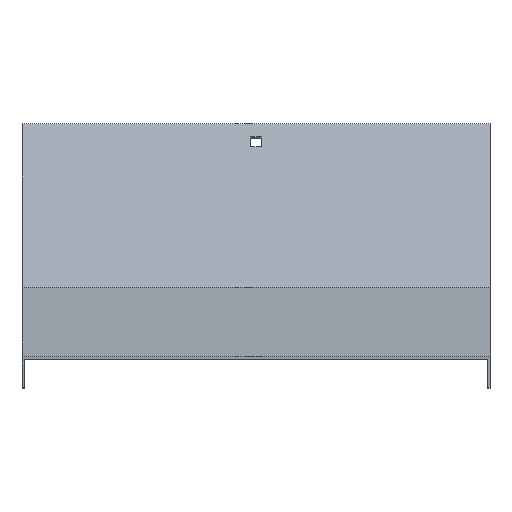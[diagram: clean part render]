
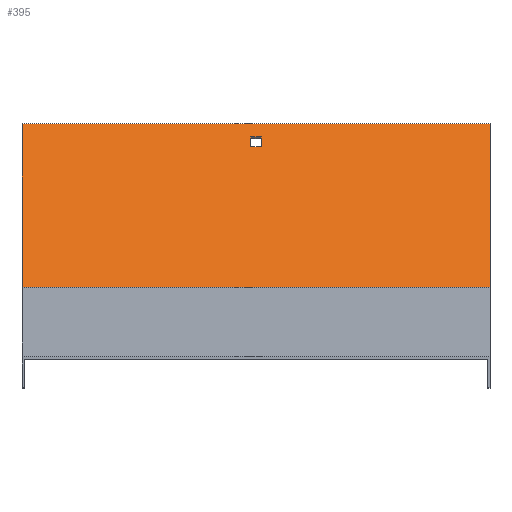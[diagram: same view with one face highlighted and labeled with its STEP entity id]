
A CAD part, top view. The second image highlights one B-rep face of the part: STEP entity #395.
In plain terms, the highlighted planar face has unit normal (0, 0.707, 0.707).
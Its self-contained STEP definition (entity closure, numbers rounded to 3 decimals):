
#5 = CARTESIAN_POINT ( 'NONE',  ( 3.25, 142.94, -357.089 ) ) ;
#14 = CARTESIAN_POINT ( 'NONE',  ( -3.25, 136.576, -350.725 ) ) ;
#15 = EDGE_CURVE ( 'NONE', #163, #213, #804, .T. ) ;
#31 = VECTOR ( 'NONE', #819, 1000. ) ;
#39 = VECTOR ( 'NONE', #87, 1000. ) ;
#43 = ORIENTED_EDGE ( 'NONE', *, *, #637, .F. ) ;
#48 = DIRECTION ( 'NONE',  ( 0., 0.707, 0.707 ) ) ;
#52 = VERTEX_POINT ( 'NONE', #284 ) ;
#87 = DIRECTION ( 'NONE',  ( 0., -0.707, 0.707 ) ) ;
#88 = VECTOR ( 'NONE', #230, 1000. ) ;
#100 = VECTOR ( 'NONE', #778, 1000. ) ;
#104 = DIRECTION ( 'NONE',  ( 0., 0.707, -0.707 ) ) ;
#108 = CARTESIAN_POINT ( 'NONE',  ( 151.5, 45.501, -259.649 ) ) ;
#149 = EDGE_LOOP ( 'NONE', ( #348, #239, #527, #237 ) ) ;
#152 = LINE ( 'NONE', #753, #254 ) ;
#157 = CARTESIAN_POINT ( 'NONE',  ( 3.25, 136.576, -350.725 ) ) ;
#163 = VERTEX_POINT ( 'NONE', #813 ) ;
#179 = FACE_OUTER_BOUND ( 'NONE', #149, .T. ) ;
#213 = VERTEX_POINT ( 'NONE', #568 ) ;
#230 = DIRECTION ( 'NONE',  ( 1., 0., 0. ) ) ;
#237 = ORIENTED_EDGE ( 'NONE', *, *, #649, .T. ) ;
#239 = ORIENTED_EDGE ( 'NONE', *, *, #697, .F. ) ;
#243 = VECTOR ( 'NONE', #782, 1000. ) ;
#254 = VECTOR ( 'NONE', #410, 1000. ) ;
#270 = EDGE_CURVE ( 'NONE', #522, #52, #802, .T. ) ;
#273 = CARTESIAN_POINT ( 'NONE',  ( -3.25, 136.576, -350.725 ) ) ;
#284 = CARTESIAN_POINT ( 'NONE',  ( 3.25, 136.576, -350.725 ) ) ;
#316 = CARTESIAN_POINT ( 'NONE',  ( 151.5, 45.501, -259.649 ) ) ;
#322 = VERTEX_POINT ( 'NONE', #364 ) ;
#324 = CARTESIAN_POINT ( 'NONE',  ( 151.5, 45.501, -259.649 ) ) ;
#327 = VERTEX_POINT ( 'NONE', #818 ) ;
#331 = DIRECTION ( 'NONE',  ( 0., 0.707, -0.707 ) ) ;
#348 = ORIENTED_EDGE ( 'NONE', *, *, #15, .F. ) ;
#364 = CARTESIAN_POINT ( 'NONE',  ( 3.25, 142.94, -357.089 ) ) ;
#395 = ADVANCED_FACE ( 'NONE', ( #432, #179 ), #633, .T. ) ;
#404 = CARTESIAN_POINT ( 'NONE',  ( 151.5, 151.426, -365.574 ) ) ;
#410 = DIRECTION ( 'NONE',  ( -1., 0., 0. ) ) ;
#422 = VECTOR ( 'NONE', #331, 1000. ) ;
#432 = FACE_BOUND ( 'NONE', #809, .T. ) ;
#433 = VERTEX_POINT ( 'NONE', #316 ) ;
#461 = ORIENTED_EDGE ( 'NONE', *, *, #270, .F. ) ;
#478 = LINE ( 'NONE', #108, #851 ) ;
#480 = LINE ( 'NONE', #324, #100 ) ;
#499 = DIRECTION ( 'NONE',  ( 0., -0.707, 0.707 ) ) ;
#517 = CARTESIAN_POINT ( 'NONE',  ( 151.5, 45.501, -259.649 ) ) ;
#522 = VERTEX_POINT ( 'NONE', #273 ) ;
#527 = ORIENTED_EDGE ( 'NONE', *, *, #842, .T. ) ;
#558 = LINE ( 'NONE', #14, #39 ) ;
#568 = CARTESIAN_POINT ( 'NONE',  ( -151.5, 151.426, -365.574 ) ) ;
#618 = CARTESIAN_POINT ( 'NONE',  ( -151.5, 45.501, -259.649 ) ) ;
#633 = PLANE ( 'NONE',  #814 ) ;
#637 = EDGE_CURVE ( 'NONE', #327, #522, #558, .T. ) ;
#649 = EDGE_CURVE ( 'NONE', #765, #213, #152, .T. ) ;
#650 = LINE ( 'NONE', #5, #243 ) ;
#670 = CARTESIAN_POINT ( 'NONE',  ( 3.25, 136.576, -350.725 ) ) ;
#697 = EDGE_CURVE ( 'NONE', #433, #163, #480, .T. ) ;
#719 = ORIENTED_EDGE ( 'NONE', *, *, #799, .F. ) ;
#751 = EDGE_CURVE ( 'NONE', #322, #327, #650, .T. ) ;
#753 = CARTESIAN_POINT ( 'NONE',  ( 151.5, 151.426, -365.574 ) ) ;
#765 = VERTEX_POINT ( 'NONE', #404 ) ;
#778 = DIRECTION ( 'NONE',  ( -1., 0., 0. ) ) ;
#782 = DIRECTION ( 'NONE',  ( -1., 0., 0. ) ) ;
#785 = LINE ( 'NONE', #670, #422 ) ;
#799 = EDGE_CURVE ( 'NONE', #52, #322, #785, .T. ) ;
#802 = LINE ( 'NONE', #157, #88 ) ;
#804 = LINE ( 'NONE', #618, #31 ) ;
#809 = EDGE_LOOP ( 'NONE', ( #719, #461, #43, #836 ) ) ;
#813 = CARTESIAN_POINT ( 'NONE',  ( -151.5, 45.501, -259.649 ) ) ;
#814 = AXIS2_PLACEMENT_3D ( 'NONE', #517, #48, #499 ) ;
#818 = CARTESIAN_POINT ( 'NONE',  ( -3.25, 142.94, -357.089 ) ) ;
#819 = DIRECTION ( 'NONE',  ( 0., 0.707, -0.707 ) ) ;
#836 = ORIENTED_EDGE ( 'NONE', *, *, #751, .F. ) ;
#842 = EDGE_CURVE ( 'NONE', #433, #765, #478, .T. ) ;
#851 = VECTOR ( 'NONE', #104, 1000. ) ;
